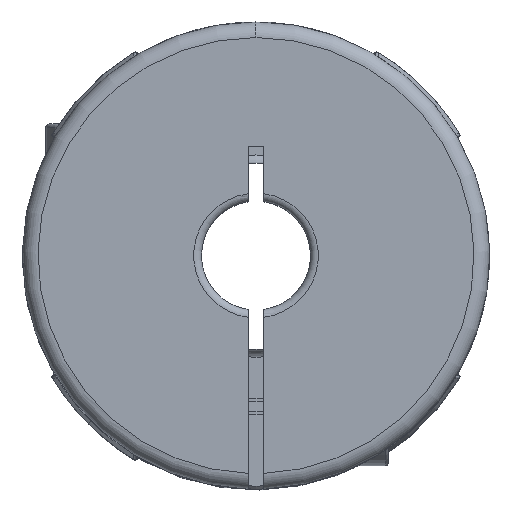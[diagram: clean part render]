
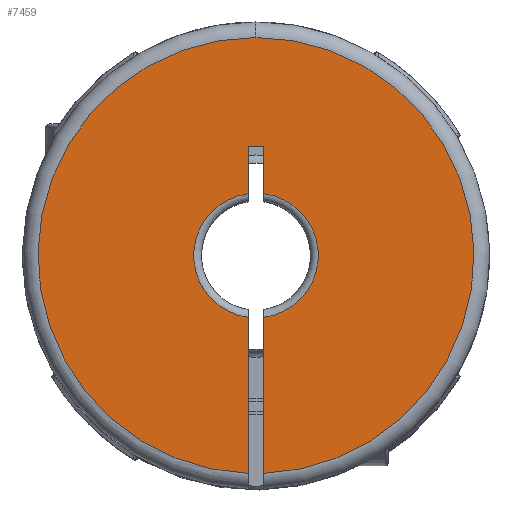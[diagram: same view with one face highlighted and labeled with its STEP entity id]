
A CAD part, top view. The second image highlights one B-rep face of the part: STEP entity #7459.
In plain terms, the highlighted planar face has unit normal (0, 0, 1).
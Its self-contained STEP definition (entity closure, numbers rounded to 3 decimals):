
#2384 = CARTESIAN_POINT ( 'NONE',  ( 1.621, 5.964, 29.552 ) ) ;
#2385 = DIRECTION ( 'NONE',  ( 0., 1., 0. ) ) ;
#2386 = DIRECTION ( 'NONE',  ( 0., 0., -1. ) ) ;
#2387 = CARTESIAN_POINT ( 'NONE',  ( 1.121, 1.995, 29.552 ) ) ;
#2388 = AXIS2_PLACEMENT_3D ( 'NONE', #2387, #2386, #2385 ) ;
#2395 = CIRCLE ( 'NONE', #2388, 4. ) ;
#2396 = CARTESIAN_POINT ( 'NONE',  ( 1.621, -1.973, 29.552 ) ) ;
#2446 = CARTESIAN_POINT ( 'NONE',  ( 0.621, 5.964, 29.552 ) ) ;
#2447 = CARTESIAN_POINT ( 'NONE',  ( 0.621, -1.973, 29.552 ) ) ;
#2448 = DIRECTION ( 'NONE',  ( 0., 1., 0. ) ) ;
#2449 = DIRECTION ( 'NONE',  ( 0., 0., -1. ) ) ;
#2450 = CARTESIAN_POINT ( 'NONE',  ( 1.121, 1.995, 29.552 ) ) ;
#2451 = AXIS2_PLACEMENT_3D ( 'NONE', #2450, #2449, #2448 ) ;
#2452 = CIRCLE ( 'NONE', #2451, 4. ) ;
#2460 = DIRECTION ( 'NONE',  ( 0., -1., 0. ) ) ;
#2461 = VECTOR ( 'NONE', #2460, 1000. ) ;
#2462 = CARTESIAN_POINT ( 'NONE',  ( 1.621, 8.995, 29.552 ) ) ;
#2463 = LINE ( 'NONE', #2462, #2461 ) ;
#2473 = CARTESIAN_POINT ( 'NONE',  ( 1.621, 8.995, 29.552 ) ) ;
#2474 = DIRECTION ( 'NONE',  ( 0., -1., 0. ) ) ;
#2475 = VECTOR ( 'NONE', #2474, 1000. ) ;
#2476 = CARTESIAN_POINT ( 'NONE',  ( 1.621, 8.995, 29.552 ) ) ;
#2477 = LINE ( 'NONE', #2476, #2475 ) ;
#2525 = VECTOR ( 'NONE', #2585, 1000. ) ;
#2526 = CARTESIAN_POINT ( 'NONE',  ( 0.621, 8.995, 29.552 ) ) ;
#2527 = LINE ( 'NONE', #2526, #2525 ) ;
#2570 = CARTESIAN_POINT ( 'NONE',  ( 1.621, -11.996, 29.552 ) ) ;
#2571 = DIRECTION ( 'NONE',  ( 0., 1., 0. ) ) ;
#2572 = DIRECTION ( 'NONE',  ( 0., 0., 1. ) ) ;
#2573 = CARTESIAN_POINT ( 'NONE',  ( 1.121, 1.995, 29.552 ) ) ;
#2574 = AXIS2_PLACEMENT_3D ( 'NONE', #2573, #2572, #2571 ) ;
#2575 = CIRCLE ( 'NONE', #2574, 14. ) ;
#2576 = DIRECTION ( 'NONE',  ( 1., 0., 0. ) ) ;
#2577 = VECTOR ( 'NONE', #2576, 1000. ) ;
#2578 = CARTESIAN_POINT ( 'NONE',  ( 1.621, 8.995, 29.552 ) ) ;
#2579 = LINE ( 'NONE', #2578, #2577 ) ;
#2580 = CARTESIAN_POINT ( 'NONE',  ( 0.621, 8.995, 29.552 ) ) ;
#2581 = DIRECTION ( 'NONE',  ( 0., -1., 0. ) ) ;
#2582 = VECTOR ( 'NONE', #2581, 1000. ) ;
#2583 = CARTESIAN_POINT ( 'NONE',  ( 0.621, 8.995, 29.552 ) ) ;
#2584 = LINE ( 'NONE', #2583, #2582 ) ;
#2585 = DIRECTION ( 'NONE',  ( 0., -1., 0. ) ) ;
#2609 = DIRECTION ( 'NONE',  ( 0., 1., 0. ) ) ;
#2610 = DIRECTION ( 'NONE',  ( 0., 0., -1. ) ) ;
#2611 = CARTESIAN_POINT ( 'NONE',  ( 1.121, 1.995, 29.552 ) ) ;
#2612 = AXIS2_PLACEMENT_3D ( 'NONE', #2611, #2610, #2609 ) ;
#2613 = PLANE ( 'NONE',  #2612 ) ;
#2614 = FACE_OUTER_BOUND ( 'NONE', #7460, .T. ) ;
#6150 = EDGE_CURVE ( 'NONE', #6151, #6152, #8579, .T. ) ;
#6151 = VERTEX_POINT ( 'NONE', #9591 ) ;
#6152 = VERTEX_POINT ( 'NONE', #9590 ) ;
#7354 = VERTEX_POINT ( 'NONE', #2396 ) ;
#7356 = EDGE_CURVE ( 'NONE', #7357, #7354, #2395, .T. ) ;
#7357 = VERTEX_POINT ( 'NONE', #2384 ) ;
#7377 = EDGE_CURVE ( 'NONE', #7354, #7452, #2463, .T. ) ;
#7378 = ORIENTED_EDGE ( 'NONE', *, *, #7451, .T. ) ;
#7381 = EDGE_CURVE ( 'NONE', #7382, #7383, #2452, .T. ) ;
#7382 = VERTEX_POINT ( 'NONE', #2447 ) ;
#7383 = VERTEX_POINT ( 'NONE', #2446 ) ;
#7397 = EDGE_CURVE ( 'NONE', #7398, #7357, #2477, .T. ) ;
#7398 = VERTEX_POINT ( 'NONE', #2473 ) ;
#7438 = ORIENTED_EDGE ( 'NONE', *, *, #6150, .T. ) ;
#7439 = ORIENTED_EDGE ( 'NONE', *, *, #7440, .F. ) ;
#7440 = EDGE_CURVE ( 'NONE', #7382, #6152, #2527, .T. ) ;
#7441 = ORIENTED_EDGE ( 'NONE', *, *, #7381, .T. ) ;
#7442 = ORIENTED_EDGE ( 'NONE', *, *, #7443, .F. ) ;
#7443 = EDGE_CURVE ( 'NONE', #7444, #7383, #2584, .T. ) ;
#7444 = VERTEX_POINT ( 'NONE', #2580 ) ;
#7445 = ORIENTED_EDGE ( 'NONE', *, *, #7446, .T. ) ;
#7446 = EDGE_CURVE ( 'NONE', #7444, #7398, #2579, .T. ) ;
#7447 = ORIENTED_EDGE ( 'NONE', *, *, #7397, .T. ) ;
#7448 = ORIENTED_EDGE ( 'NONE', *, *, #7356, .T. ) ;
#7451 = EDGE_CURVE ( 'NONE', #7452, #6151, #2575, .T. ) ;
#7452 = VERTEX_POINT ( 'NONE', #2570 ) ;
#7459 = ADVANCED_FACE ( 'NONE', ( #2614 ), #2613, .F. ) ;
#7460 = EDGE_LOOP ( 'NONE', ( #7461, #7378, #7438, #7439, #7441, #7442, #7445, #7447, #7448 ) ) ;
#7461 = ORIENTED_EDGE ( 'NONE', *, *, #7377, .T. ) ;
#8579 = CIRCLE ( 'NONE', #9468, 14. ) ;
#9468 = AXIS2_PLACEMENT_3D ( 'NONE', #11816, #11813, #12373 ) ;
#9590 = CARTESIAN_POINT ( 'NONE',  ( 0.621, -11.996, 29.552 ) ) ;
#9591 = CARTESIAN_POINT ( 'NONE',  ( 1.121, 15.995, 29.552 ) ) ;
#11813 = DIRECTION ( 'NONE',  ( 0., 0., 1. ) ) ;
#11816 = CARTESIAN_POINT ( 'NONE',  ( 1.121, 1.995, 29.552 ) ) ;
#12373 = DIRECTION ( 'NONE',  ( 0., 1., 0. ) ) ;
